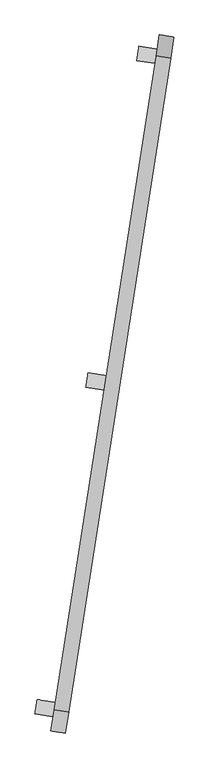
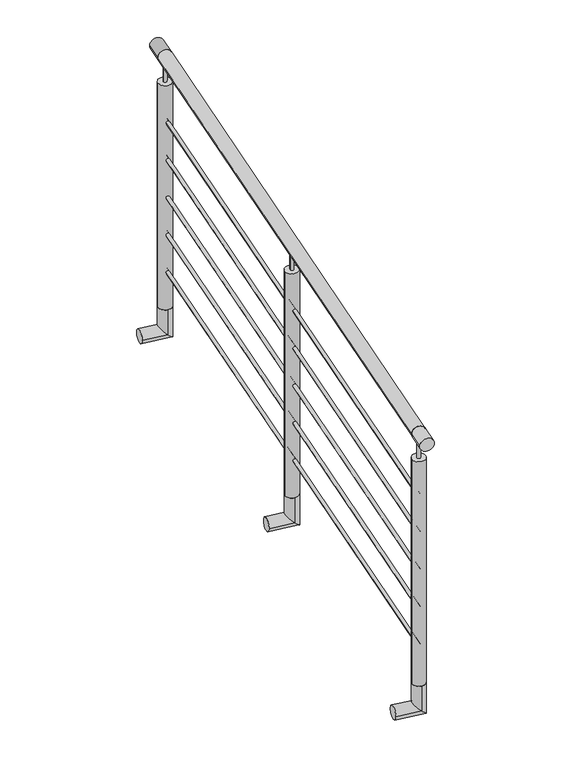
"""IFC4 building model written with IfcOpenShell, lengths in millimetres: railing geometry, Barandal acero inox - sobre ventana."""

from ifc_helpers import new_model, si_unit, point, frame, frame_2d, origin, origin_2d, place, context, project, spatial, circle_curve, ellipse_curve, trimmed, segment, composite_curve, outline, extrude, source, transform, mapped, element, save
from ifc_brep_helpers import plane_surface, cylinder_surface, advanced_brep


def railing_35e9836a(model_context):
    return source(origin(), model_context, "Body", "SolidModel", [
        extrude(outline(composite_curve([segment(trimmed(circle_curve(origin_2d(), 25.4), [point((25.4, 0.0))], [point((-25.4000001, 0.0))], False, "CARTESIAN"), True, "CONTINUOUS"), segment(trimmed(circle_curve(origin_2d(), 25.4), [point((-25.4000001, 0.0))], [point((25.4, 0.0))], False, "CARTESIAN"), True, "CONTINUOUS")], self_intersect=False)), frame((-22844.8635852, -67339.2079965, 13800.0), z_axis=(0.1540098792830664, 0.9880693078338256, 0.0), x_axis=(0.9880693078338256, -0.1540098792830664, 0.0)), (0.0, 0.0, 1.0), 2309.9999994),
        extrude(outline(composite_curve([segment(trimmed(circle_curve(origin_2d(), 6.35), [point((6.35, 0.0))], [point((-6.35, 0.0))], False, "CARTESIAN"), True, "CONTINUOUS"), segment(trimmed(circle_curve(origin_2d(), 6.35), [point((-6.35, 0.0))], [point((6.35, 0.0))], False, "CARTESIAN"), True, "CONTINUOUS")], self_intersect=False)), frame((-22844.8635852, -67339.2079965, 13550.0), z_axis=(0.1540098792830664, 0.9880693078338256, 0.0), x_axis=(0.9880693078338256, -0.1540098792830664, 0.0)), (0.0, 0.0, 1.0), 2309.9999994),
        extrude(outline(composite_curve([segment(trimmed(circle_curve(origin_2d(), 6.35), [point((6.35, 0.0))], [point((-6.35, 0.0))], False, "CARTESIAN"), True, "CONTINUOUS"), segment(trimmed(circle_curve(origin_2d(), 6.35), [point((-6.35, 0.0))], [point((6.35, 0.0))], False, "CARTESIAN"), True, "CONTINUOUS")], self_intersect=False)), frame((-22844.8635852, -67339.2079965, 13400.0), z_axis=(0.1540098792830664, 0.9880693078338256, 0.0), x_axis=(0.9880693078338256, -0.1540098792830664, 0.0)), (0.0, 0.0, 1.0), 2309.9999994),
        extrude(outline(composite_curve([segment(trimmed(circle_curve(origin_2d(), 6.35), [point((6.35, 0.0))], [point((-6.35, 0.0))], False, "CARTESIAN"), True, "CONTINUOUS"), segment(trimmed(circle_curve(origin_2d(), 6.35), [point((-6.35, 0.0))], [point((6.35, 0.0))], False, "CARTESIAN"), True, "CONTINUOUS")], self_intersect=False)), frame((-22844.8635852, -67339.2079965, 13250.0), z_axis=(0.1540098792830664, 0.9880693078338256, 0.0), x_axis=(0.9880693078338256, -0.1540098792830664, 0.0)), (0.0, 0.0, 1.0), 2309.9999994),
        extrude(outline(composite_curve([segment(trimmed(circle_curve(origin_2d(), 6.35), [point((6.35, 0.0))], [point((-6.35, 0.0))], False, "CARTESIAN"), True, "CONTINUOUS"), segment(trimmed(circle_curve(origin_2d(), 6.35), [point((-6.35, 0.0))], [point((6.35, 0.0))], False, "CARTESIAN"), True, "CONTINUOUS")], self_intersect=False)), frame((-22844.8635852, -67339.2079965, 13100.0), z_axis=(0.1540098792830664, 0.9880693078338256, 0.0), x_axis=(0.9880693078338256, -0.1540098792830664, 0.0)), (0.0, 0.0, 1.0), 2309.9999994),
        extrude(outline(composite_curve([segment(trimmed(circle_curve(origin_2d(), 6.35), [point((6.35, 0.0))], [point((-6.35, 0.0))], False, "CARTESIAN"), True, "CONTINUOUS"), segment(trimmed(circle_curve(origin_2d(), 6.35), [point((-6.35, 0.0))], [point((6.35, 0.0))], False, "CARTESIAN"), True, "CONTINUOUS")], self_intersect=False)), frame((-22844.8635852, -67339.2079965, 12950.0), z_axis=(0.1540098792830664, 0.9880693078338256, 0.0), x_axis=(0.9880693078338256, -0.1540098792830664, 0.0)), (0.0, 0.0, 1.0), 2309.9999994),
        advanced_brep(
        [(-22670.8940256, -66223.0849067, 12800.0), (-22663.0703238, -66172.8909858, 12800.0), (-22663.0703238, -66172.8909858, 12700.0), (-22670.8940256, -66223.0849067, 12700.0), (-22759.8202633, -66209.2240175, 12700.0), (-22751.9965615, -66159.0300967, 12700.0)],
        [
            (0, 1, circle_curve(frame((-22666.9821747, -66197.9879462, 12800.0), z_axis=(0.0, 0.0, 1.0), x_axis=(0.1540098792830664, 0.9880693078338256, 0.0)), 25.4)),
            (1, 0, circle_curve(frame((-22666.9821747, -66197.9879462, 12800.0), z_axis=(0.0, 0.0, 1.0), x_axis=(0.1540098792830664, 0.9880693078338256, 0.0)), 25.4)),
            (1, 2),
            (2, 3, ellipse_curve(frame((-22666.9821747, -66197.9879462, 12700.0), z_axis=(0.6986705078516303, -0.10890143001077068, 0.7071067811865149), x_axis=(-0.6986705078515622, 0.10890143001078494, 0.7071067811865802)), 35.9210245, 25.4)),
            (3, 0),
            (3, 2, ellipse_curve(frame((-22666.9821747, -66197.9879462, 12700.0), z_axis=(0.6986705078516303, -0.10890143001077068, 0.7071067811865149), x_axis=(-0.6986705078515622, 0.10890143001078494, 0.7071067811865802)), 35.9210245, 25.4)),
            (4, 5, circle_curve(frame((-22755.9084124, -66184.1270571, 12700.0), z_axis=(-0.9880693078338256, 0.1540098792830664, 0.0), x_axis=(0.1540098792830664, 0.9880693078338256, 0.0)), 25.4)),
            (5, 4, circle_curve(frame((-22755.9084124, -66184.1270571, 12700.0), z_axis=(-0.9880693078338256, 0.1540098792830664, 0.0), x_axis=(0.1540098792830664, 0.9880693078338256, 0.0)), 25.4)),
            (2, 5),
            (4, 3),
        ],
        [
            plane_surface(frame((-22666.9821747, -66197.9879462, 12800.0), z_axis=(0.0, 0.0, 1.0), x_axis=(0.1540098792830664, 0.9880693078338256, 0.0))),
            cylinder_surface(frame((-22666.9821747, -66197.9879462, 12800.0), z_axis=(0.0, 0.0, 1.0), x_axis=(0.1540098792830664, 0.9880693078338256, 0.0)), 25.4),
            plane_surface(frame((-22755.9084124, -66184.1270571, 12700.0), z_axis=(-0.9880693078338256, 0.1540098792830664, 0.0), x_axis=(0.1540098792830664, 0.9880693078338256, 0.0))),
            cylinder_surface(frame((-22666.9821747, -66197.9879462, 12700.0), z_axis=(0.9880693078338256, -0.1540098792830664, 0.0), x_axis=(0.1540098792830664, 0.9880693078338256, 0.0)), 25.4),
        ],
        [
            (0, [[1, 2]]),
            (1, [[3, 4, 5, -2]]),
            (1, [[-5, 6, -3, -1]]),
            (2, [[7, 8]]),
            (3, [[9, -7, 10, -4]]),
            (3, [[-10, -8, -9, -6]]),
        ],
    ),
        extrude(outline(composite_curve([segment(trimmed(circle_curve(frame_2d((-22666.9821747, -66197.9879462)), 6.35), [point((-22673.2564148, -66197.0099835))], [point((-22660.7079346, -66198.965909))], False, "CARTESIAN"), True, "CONTINUOUS"), segment(trimmed(circle_curve(frame_2d((-22666.9821747, -66197.9879462)), 6.35), [point((-22660.7079346, -66198.965909))], [point((-22673.2564148, -66197.0099835))], False, "CARTESIAN"), True, "CONTINUOUS")], self_intersect=False)), frame((0.0, 0.0, 13699.6), z_axis=(0.0, 0.0, 1.0), x_axis=(1.0, 0.0, 0.0)), (0.0, 0.0, 1.0), 75.0),
        extrude(outline(composite_curve([segment(trimmed(circle_curve(frame_2d((-22666.9821747, -66197.9879462)), 25.4), [point((-22692.0791351, -66194.0760953))], [point((-22641.8852143, -66201.8997972))], False, "CARTESIAN"), True, "CONTINUOUS"), segment(trimmed(circle_curve(frame_2d((-22666.9821747, -66197.9879462)), 25.4), [point((-22641.8852143, -66201.8997972))], [point((-22692.0791351, -66194.0760953))], False, "CARTESIAN"), True, "CONTINUOUS")], self_intersect=False)), frame((0.0, 0.0, 12800.0), z_axis=(0.0, 0.0, 1.0), x_axis=(1.0, 0.0, 0.0)), (0.0, 0.0, 1.0), 899.6),
        advanced_brep(
        [(-22493.0126151, -65081.8648564, 12800.0), (-22485.1889132, -65031.6709356, 12800.0), (-22485.1889132, -65031.6709356, 12700.0), (-22493.0126151, -65081.8648564, 12700.0), (-22581.9388528, -65068.0039673, 12700.0), (-22574.115151, -65017.8100464, 12700.0)],
        [
            (0, 1, circle_curve(frame((-22489.1007642, -65056.767896, 12800.0), z_axis=(0.0, 0.0, 1.0), x_axis=(0.1540098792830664, 0.9880693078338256, 0.0)), 25.4)),
            (1, 0, circle_curve(frame((-22489.1007642, -65056.767896, 12800.0), z_axis=(0.0, 0.0, 1.0), x_axis=(0.1540098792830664, 0.9880693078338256, 0.0)), 25.4)),
            (1, 2),
            (2, 3, ellipse_curve(frame((-22489.1007642, -65056.767896, 12700.0), z_axis=(0.6986705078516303, -0.10890143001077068, 0.7071067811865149), x_axis=(-0.6986705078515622, 0.10890143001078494, 0.7071067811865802)), 35.9210245, 25.4)),
            (3, 0),
            (3, 2, ellipse_curve(frame((-22489.1007642, -65056.767896, 12700.0), z_axis=(0.6986705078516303, -0.10890143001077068, 0.7071067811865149), x_axis=(-0.6986705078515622, 0.10890143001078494, 0.7071067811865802)), 35.9210245, 25.4)),
            (4, 5, circle_curve(frame((-22578.0270019, -65042.9070069, 12700.0), z_axis=(-0.9880693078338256, 0.1540098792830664, 0.0), x_axis=(0.1540098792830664, 0.9880693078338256, 0.0)), 25.4)),
            (5, 4, circle_curve(frame((-22578.0270019, -65042.9070069, 12700.0), z_axis=(-0.9880693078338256, 0.1540098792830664, 0.0), x_axis=(0.1540098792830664, 0.9880693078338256, 0.0)), 25.4)),
            (2, 5),
            (4, 3),
        ],
        [
            plane_surface(frame((-22489.1007642, -65056.767896, 12800.0), z_axis=(0.0, 0.0, 1.0), x_axis=(0.1540098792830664, 0.9880693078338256, 0.0))),
            cylinder_surface(frame((-22489.1007642, -65056.767896, 12800.0), z_axis=(0.0, 0.0, 1.0), x_axis=(0.1540098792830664, 0.9880693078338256, 0.0)), 25.4),
            plane_surface(frame((-22578.0270019, -65042.9070069, 12700.0), z_axis=(-0.9880693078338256, 0.1540098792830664, 0.0), x_axis=(0.1540098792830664, 0.9880693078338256, 0.0))),
            cylinder_surface(frame((-22489.1007642, -65056.767896, 12700.0), z_axis=(0.9880693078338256, -0.1540098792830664, 0.0), x_axis=(0.1540098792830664, 0.9880693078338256, 0.0)), 25.4),
        ],
        [
            (0, [[1, 2]]),
            (1, [[3, 4, 5, -2]]),
            (1, [[-5, 6, -3, -1]]),
            (2, [[7, 8]]),
            (3, [[9, -7, 10, -4]]),
            (3, [[-10, -8, -9, -6]]),
        ],
    ),
        extrude(outline(composite_curve([segment(trimmed(circle_curve(frame_2d((0.0, 25.4)), 25.4), [point((0.0, 50.8))], [point((0.0, 0.0))], False, "CARTESIAN"), True, "CONTINUOUS"), segment(trimmed(circle_curve(frame_2d((0.0, 25.4)), 25.4), [point((0.0, 0.0))], [point((0.0, 50.8))], False, "CARTESIAN"), True, "CONTINUOUS")], self_intersect=False)), frame((-22464.0038038, -65060.6797469, 13800.0), z_axis=(0.1540098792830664, 0.9880693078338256, 0.0), x_axis=(0.0, 0.0, -1.0)), (0.0, 0.0, 1.0), 75.0),
        extrude(outline(composite_curve([segment(trimmed(circle_curve(frame_2d((-22489.1007642, -65056.767896)), 6.35), [point((-22495.3750043, -65055.7899333))], [point((-22482.8265241, -65057.7458587))], False, "CARTESIAN"), True, "CONTINUOUS"), segment(trimmed(circle_curve(frame_2d((-22489.1007642, -65056.767896)), 6.35), [point((-22482.8265241, -65057.7458587))], [point((-22495.3750043, -65055.7899333))], False, "CARTESIAN"), True, "CONTINUOUS")], self_intersect=False)), frame((0.0, 0.0, 13699.6), z_axis=(0.0, 0.0, 1.0), x_axis=(1.0, 0.0, 0.0)), (0.0, 0.0, 1.0), 75.0),
        extrude(outline(composite_curve([segment(trimmed(circle_curve(frame_2d((-22489.1007642, -65056.767896)), 25.4), [point((-22514.1977246, -65052.8560451))], [point((-22464.0038038, -65060.6797469))], False, "CARTESIAN"), True, "CONTINUOUS"), segment(trimmed(circle_curve(frame_2d((-22489.1007642, -65056.767896)), 25.4), [point((-22464.0038038, -65060.6797469))], [point((-22514.1977246, -65052.8560451))], False, "CARTESIAN"), True, "CONTINUOUS")], self_intersect=False)), frame((0.0, 0.0, 12800.0), z_axis=(0.0, 0.0, 1.0), x_axis=(1.0, 0.0, 0.0)), (0.0, 0.0, 1.0), 899.6),
        advanced_brep(
        [(-22848.7754362, -67364.3049569, 12800.0), (-22840.9517343, -67314.1110361, 12800.0), (-22840.9517343, -67314.1110361, 12700.0), (-22848.7754362, -67364.3049569, 12700.0), (-22937.7016739, -67350.4440678, 12700.0), (-22929.877972, -67300.2501469, 12700.0)],
        [
            (0, 1, circle_curve(frame((-22844.8635852, -67339.2079965, 12800.0), z_axis=(0.0, 0.0, 1.0), x_axis=(0.1540098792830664, 0.9880693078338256, 0.0)), 25.4)),
            (1, 0, circle_curve(frame((-22844.8635852, -67339.2079965, 12800.0), z_axis=(0.0, 0.0, 1.0), x_axis=(0.1540098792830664, 0.9880693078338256, 0.0)), 25.4)),
            (1, 2),
            (2, 3, ellipse_curve(frame((-22844.8635852, -67339.2079965, 12700.0), z_axis=(0.6986705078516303, -0.10890143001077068, 0.7071067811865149), x_axis=(-0.6986705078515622, 0.10890143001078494, 0.7071067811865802)), 35.9210245, 25.4)),
            (3, 0),
            (3, 2, ellipse_curve(frame((-22844.8635852, -67339.2079965, 12700.0), z_axis=(0.6986705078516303, -0.10890143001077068, 0.7071067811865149), x_axis=(-0.6986705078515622, 0.10890143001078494, 0.7071067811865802)), 35.9210245, 25.4)),
            (4, 5, circle_curve(frame((-22933.7898229, -67325.3471074, 12700.0), z_axis=(-0.9880693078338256, 0.1540098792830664, 0.0), x_axis=(0.1540098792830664, 0.9880693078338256, 0.0)), 25.4)),
            (5, 4, circle_curve(frame((-22933.7898229, -67325.3471074, 12700.0), z_axis=(-0.9880693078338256, 0.1540098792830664, 0.0), x_axis=(0.1540098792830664, 0.9880693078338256, 0.0)), 25.4)),
            (2, 5),
            (4, 3),
        ],
        [
            plane_surface(frame((-22844.8635852, -67339.2079965, 12800.0), z_axis=(0.0, 0.0, 1.0), x_axis=(0.1540098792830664, 0.9880693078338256, 0.0))),
            cylinder_surface(frame((-22844.8635852, -67339.2079965, 12800.0), z_axis=(0.0, 0.0, 1.0), x_axis=(0.1540098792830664, 0.9880693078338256, 0.0)), 25.4),
            plane_surface(frame((-22933.7898229, -67325.3471074, 12700.0), z_axis=(-0.9880693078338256, 0.1540098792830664, 0.0), x_axis=(0.1540098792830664, 0.9880693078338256, 0.0))),
            cylinder_surface(frame((-22844.8635852, -67339.2079965, 12700.0), z_axis=(0.9880693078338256, -0.1540098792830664, 0.0), x_axis=(0.1540098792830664, 0.9880693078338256, 0.0)), 25.4),
        ],
        [
            (0, [[1, 2]]),
            (1, [[3, 4, 5, -2]]),
            (1, [[-5, 6, -3, -1]]),
            (2, [[7, 8]]),
            (3, [[9, -7, 10, -4]]),
            (3, [[-10, -8, -9, -6]]),
        ],
    ),
        extrude(outline(composite_curve([segment(trimmed(circle_curve(frame_2d((0.0, 25.4)), 25.4), [point((0.0, 50.8))], [point((0.0, 0.0))], False, "CARTESIAN"), True, "CONTINUOUS"), segment(trimmed(circle_curve(frame_2d((0.0, 25.4)), 25.4), [point((0.0, 0.0))], [point((0.0, 50.8))], False, "CARTESIAN"), True, "CONTINUOUS")], self_intersect=False)), frame((-22831.3173658, -67417.2250455, 13800.0), z_axis=(0.1540098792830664, 0.9880693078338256, 0.0), x_axis=(0.0, 0.0, -1.0)), (0.0, 0.0, 1.0), 75.0),
        extrude(outline(composite_curve([segment(trimmed(circle_curve(frame_2d((-22844.8635852, -67339.2079965)), 6.35), [point((-22851.1378253, -67338.2300338))], [point((-22838.5893451, -67340.1859592))], False, "CARTESIAN"), True, "CONTINUOUS"), segment(trimmed(circle_curve(frame_2d((-22844.8635852, -67339.2079965)), 6.35), [point((-22838.5893451, -67340.1859592))], [point((-22851.1378253, -67338.2300338))], False, "CARTESIAN"), True, "CONTINUOUS")], self_intersect=False)), frame((0.0, 0.0, 13699.6), z_axis=(0.0, 0.0, 1.0), x_axis=(1.0, 0.0, 0.0)), (0.0, 0.0, 1.0), 75.0),
        extrude(outline(composite_curve([segment(trimmed(circle_curve(frame_2d((-22844.8635852, -67339.2079965)), 25.4), [point((-22869.9605457, -67335.2961456))], [point((-22819.7666248, -67343.1198474))], False, "CARTESIAN"), True, "CONTINUOUS"), segment(trimmed(circle_curve(frame_2d((-22844.8635852, -67339.2079965)), 25.4), [point((-22819.7666248, -67343.1198474))], [point((-22869.9605457, -67335.2961456))], False, "CARTESIAN"), True, "CONTINUOUS")], self_intersect=False)), frame((0.0, 0.0, 12800.0), z_axis=(0.0, 0.0, 1.0), x_axis=(1.0, 0.0, 0.0)), (0.0, 0.0, 1.0), 899.6),
    ])


if __name__ == "__main__":
    model = new_model("IFC4")
    model_context = context("Model", 3, world=origin())
    ifc_project = project(units=[si_unit("LENGTHUNIT", "METRE", prefix="MILLI")], contexts=[model_context])
    site = spatial("IfcSite", under=ifc_project)
    building = spatial("IfcBuilding", under=site)
    placement = place(None, origin())
    railing_shape = railing_35e9836a(model_context)
    element("IfcRailing", 1, ObjectType="Barandal acero inox - sobre ventana", at=placement, inside=building, context=model_context, shape_type="MappedRepresentation", body=[
        mapped(railing_shape, transform((0.0, 0.0, 0.0), x_axis=(1.0, 0.0, 0.0), y_axis=(0.0, 1.0, 0.0), z_axis=(0.0, 0.0, 1.0))),
    ])
    save(model, "model.ifc")
